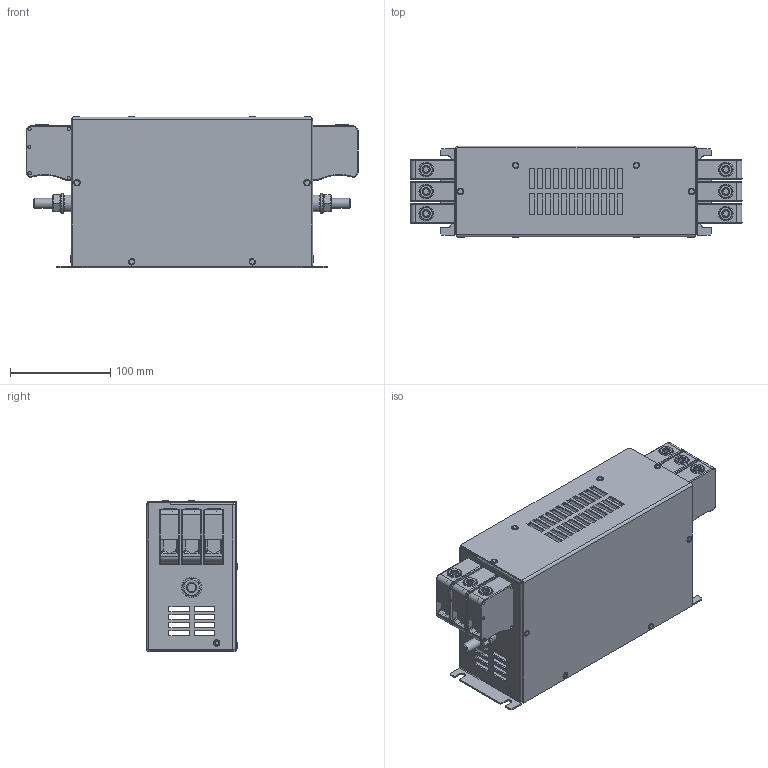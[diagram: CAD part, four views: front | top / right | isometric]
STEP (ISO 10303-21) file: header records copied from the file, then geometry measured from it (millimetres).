
FILE_DESCRIPTION((''),'2;1');
FILE_NAME('L:\INVENTOR_Projektedaten\HousingDesign\FN3258-100_135_35.stp','2012-10-29T10:09:11',('Samuel.Meier'),(''),'Autodesk Inventor 2010','Autodesk Inventor 2010','');
FILE_SCHEMA(('AUTOMOTIVE_DESIGN { 1 2 10303 214 0 1 1 1 }'));
Length unit declared in the file: millimetre
Products named in the file (1): Bauteil20
Bounding box: 330.4 x 90.8 x 150.8 mm (x, y, z)
Volume: 567169.3 mm3; surface area: 343606.5 mm2
Topology: 1 solids, 13 shells, 1827 faces, 4475 edges, 2767 vertices
Faces by surface type: plane 947, cylinder 548, bspline 180, torus 70, sphere 60, cone 22
Full cylindrical faces by diameter (mm): 3.2 x10, 3.3 x28, 6.5 x10, 6.8 x6, 7 x1, 8 x1, 10 x6, 10.5 x4, 12.7 x2, 14.63 x2, 16.5 x2, 20 x2
Entity records: 57208 total; most frequent: CARTESIAN_POINT 12892, DIRECTION 8772, ORIENTED_EDGE 8600, EDGE_CURVE 4300, AXIS2_PLACEMENT_3D 3056, VERTEX_POINT 2754, VECTOR 2660, LINE 2660
